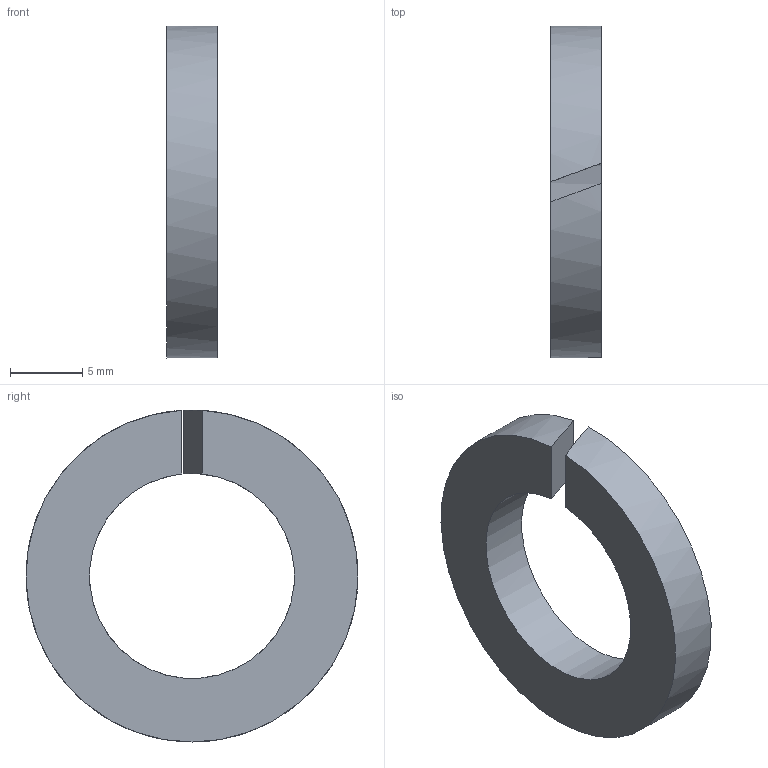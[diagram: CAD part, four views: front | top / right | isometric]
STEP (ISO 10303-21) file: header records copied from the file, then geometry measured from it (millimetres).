
FILE_DESCRIPTION(/* description */ ('스프링 잠금 와셔'),/* implementation_level */ '2;1');
FILE_NAME(/* name */ '',/* time_stamp */ '2025-07-11T16:46:22+09:00',/* author */ ('jhkim'),/* organization */ (''),/* preprocessor_version */ 'ST-DEVELOPER v20.1',/* originating_system */ 'Autodesk Inventor 2026',/* authorisation */ '');
FILE_SCHEMA (('AUTOMOTIVE_DESIGN { 1 0 10303 214 3 1 1 }'));
Length unit declared in the file: millimetre
Products named in the file (1): 스프링 와셔 M14
Bounding box: 3.5 x 22.99 x 23 mm (x, y, z)
Volume: 878.2 mm3; surface area: 934 mm2
Topology: 1 solids, 1 shells, 6 faces, 12 edges, 8 vertices
Faces by surface type: plane 4, cylinder 2
Entity records: 207 total; most frequent: DIRECTION 34, CARTESIAN_POINT 27, ORIENTED_EDGE 24, AXIS2_PLACEMENT_3D 15, EDGE_CURVE 12, VERTEX_POINT 8, FACE_OUTER_BOUND 6, EDGE_LOOP 6
